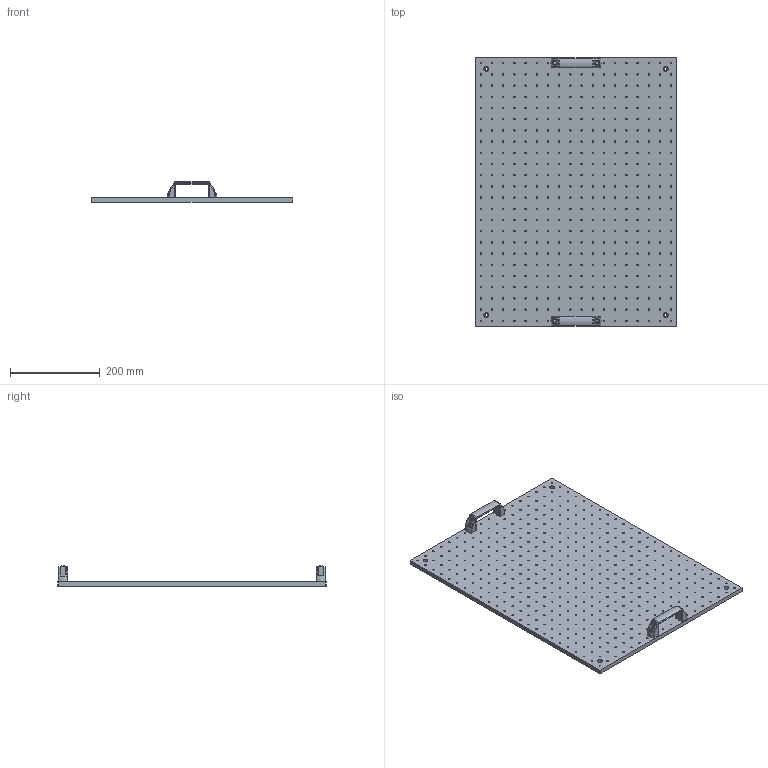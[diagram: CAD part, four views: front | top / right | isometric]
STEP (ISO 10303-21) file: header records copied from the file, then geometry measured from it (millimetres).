
FILE_DESCRIPTION((''),'2;1');
FILE_NAME('D:\OBC-4560\OC-4560.stp','2012-04-17T23:19:00',('h.yachi'),(''),'Autodesk Inventor 2008','Autodesk Inventor 2008','');
FILE_SCHEMA(('AUTOMOTIVE_DESIGN { 1 0 10303 214 1 1 1 1 }'));
Length unit declared in the file: millimetre
Products named in the file (1): OC-4560
Bounding box: 450 x 600 x 46 mm (x, y, z)
Volume: 2701225.3 mm3; surface area: 617329.6 mm2
Topology: 1 solids, 5 shells, 626 faces, 2180 edges, 1584 vertices
Faces by surface type: bspline 464, plane 92, cylinder 46, torus 20, cone 4
Full cylindrical faces by diameter (mm): 6 x4, 6.5 x4, 10 x4, 10.5 x4
Entity records: 27170 total; most frequent: CARTESIAN_POINT 12111, ORIENTED_EDGE 2568, DIRECTION 2562, EDGE_LOOP 1994, FACE_BOUND 1368, EDGE_CURVE 1284, AXIS2_PLACEMENT_3D 1187, VERTEX_POINT 1152
